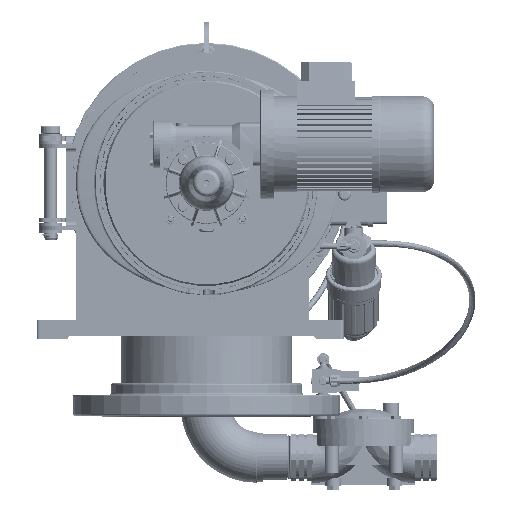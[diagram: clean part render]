
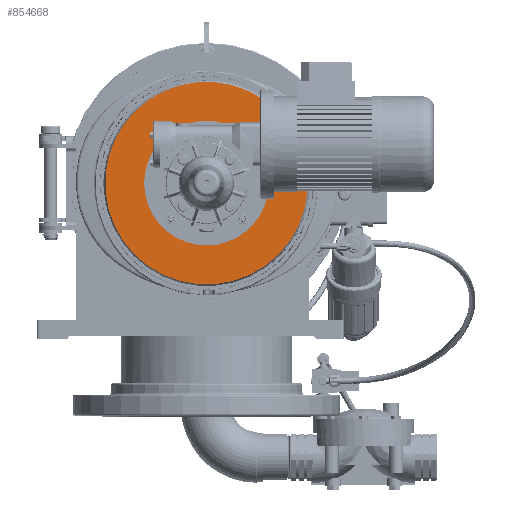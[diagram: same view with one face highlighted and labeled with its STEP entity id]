
A CAD part, left-side view. The second image highlights one B-rep face of the part: STEP entity #854668.
In plain terms, the highlighted planar face has unit normal (-1, 0, 0).
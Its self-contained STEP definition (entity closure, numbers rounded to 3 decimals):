
#641 = CARTESIAN_POINT ( 'NONE',  ( 497.373, 18.385, -18.385 ) ) ;
#35593 = AXIS2_PLACEMENT_3D ( 'NONE', #313316, #603792, #622602 ) ;
#39583 = AXIS2_PLACEMENT_3D ( 'NONE', #911062, #758807, #182610 ) ;
#68202 = EDGE_CURVE ( 'NONE', #663460, #663460, #194038, .T. ) ;
#77144 = DIRECTION ( 'NONE',  ( -1., 0., 0. ) ) ;
#77811 = CARTESIAN_POINT ( 'NONE',  ( 497.373, 91.924, -91.924 ) ) ;
#86462 = FACE_BOUND ( 'NONE', #373681, .T. ) ;
#87543 = CARTESIAN_POINT ( 'NONE',  ( 497.373, -25.633, -20.329 ) ) ;
#88344 = AXIS2_PLACEMENT_3D ( 'NONE', #870067, #650931, #941338 ) ;
#91126 = FACE_BOUND ( 'NONE', #316213, .T. ) ;
#105217 = EDGE_CURVE ( 'NONE', #853331, #853331, #626335, .T. ) ;
#109070 = AXIS2_PLACEMENT_3D ( 'NONE', #664599, #293246, #645802 ) ;
#125843 = DIRECTION ( 'NONE',  ( 1., 0., 0. ) ) ;
#143909 = CARTESIAN_POINT ( 'NONE',  ( 497.373, 0., 0. ) ) ;
#160482 = DIRECTION ( 'NONE',  ( 0., -0.707, 0.707 ) ) ;
#160618 = CIRCLE ( 'NONE', #936095, 3.75 ) ;
#161523 = ORIENTED_EDGE ( 'NONE', *, *, #105217, .F. ) ;
#182610 = DIRECTION ( 'NONE',  ( 0., -0.707, 0.707 ) ) ;
#191957 = EDGE_CURVE ( 'NONE', #816051, #816051, #377718, .T. ) ;
#194038 = CIRCLE ( 'NONE', #361071, 4.75 ) ;
#195399 = DIRECTION ( 'NONE',  ( 0., -0.707, 0.707 ) ) ;
#207110 = ORIENTED_EDGE ( 'NONE', *, *, #264818, .T. ) ;
#222017 = EDGE_LOOP ( 'NONE', ( #235247 ) ) ;
#229404 = FACE_BOUND ( 'NONE', #300379, .T. ) ;
#234933 = CARTESIAN_POINT ( 'NONE',  ( 497.373, 42.603, -42.603 ) ) ;
#235247 = ORIENTED_EDGE ( 'NONE', *, *, #855357, .T. ) ;
#264818 = EDGE_CURVE ( 'NONE', #796709, #796709, #537292, .T. ) ;
#285810 = EDGE_LOOP ( 'NONE', ( #557006 ) ) ;
#292375 = CARTESIAN_POINT ( 'NONE',  ( 497.373, 28.741, -5.76 ) ) ;
#293246 = DIRECTION ( 'NONE',  ( -1., 0., 0. ) ) ;
#300379 = EDGE_LOOP ( 'NONE', ( #824890 ) ) ;
#305290 = FACE_BOUND ( 'NONE', #768752, .T. ) ;
#310989 = EDGE_LOOP ( 'NONE', ( #207110 ) ) ;
#313316 = CARTESIAN_POINT ( 'NONE',  ( 497.373, -8.412, 31.393 ) ) ;
#316213 = EDGE_LOOP ( 'NONE', ( #161523 ) ) ;
#323524 = DIRECTION ( 'NONE',  ( 0., -0.707, 0.707 ) ) ;
#356814 = DIRECTION ( 'NONE',  ( 1., 0., 0. ) ) ;
#361071 = AXIS2_PLACEMENT_3D ( 'NONE', #828520, #466500, #323524 ) ;
#373681 = EDGE_LOOP ( 'NONE', ( #535124 ) ) ;
#377718 = CIRCLE ( 'NONE', #88344, 4.75 ) ;
#391993 = EDGE_CURVE ( 'NONE', #839076, #839076, #732721, .T. ) ;
#453013 = FACE_OUTER_BOUND ( 'NONE', #285810, .T. ) ;
#458723 = CARTESIAN_POINT ( 'NONE',  ( 497.373, -49.321, 49.321 ) ) ;
#466500 = DIRECTION ( 'NONE',  ( 1., 0., 0. ) ) ;
#510362 = PLANE ( 'NONE',  #633081 ) ;
#515156 = DIRECTION ( 'NONE',  ( 0., 0.707, -0.707 ) ) ;
#515891 = EDGE_LOOP ( 'NONE', ( #686900 ) ) ;
#527083 = DIRECTION ( 'NONE',  ( 1., 0., 0. ) ) ;
#527780 = EDGE_CURVE ( 'NONE', #587213, #587213, #796370, .T. ) ;
#534182 = EDGE_CURVE ( 'NONE', #596627, #596627, #758636, .T. ) ;
#535124 = ORIENTED_EDGE ( 'NONE', *, *, #843809, .T. ) ;
#537292 = CIRCLE ( 'NONE', #35593, 3.75 ) ;
#557006 = ORIENTED_EDGE ( 'NONE', *, *, #534182, .T. ) ;
#557263 = CARTESIAN_POINT ( 'NONE',  ( 497.373, -45.962, -45.962 ) ) ;
#559193 = CARTESIAN_POINT ( 'NONE',  ( 497.373, -22.981, -22.981 ) ) ;
#562546 = CARTESIAN_POINT ( 'NONE',  ( 497.373, 42.603, 49.321 ) ) ;
#563559 = ORIENTED_EDGE ( 'NONE', *, *, #527780, .T. ) ;
#565509 = AXIS2_PLACEMENT_3D ( 'NONE', #874980, #527083, #160482 ) ;
#586388 = CARTESIAN_POINT ( 'NONE',  ( 497.373, -91.924, -91.924 ) ) ;
#586601 = CIRCLE ( 'NONE', #39583, 3.75 ) ;
#587213 = VERTEX_POINT ( 'NONE', #734865 ) ;
#596627 = VERTEX_POINT ( 'NONE', #77811 ) ;
#603792 = DIRECTION ( 'NONE',  ( 1., 0., 0. ) ) ;
#622602 = DIRECTION ( 'NONE',  ( 0., -0.707, 0.707 ) ) ;
#626335 = CIRCLE ( 'NONE', #109070, 26. ) ;
#633081 = AXIS2_PLACEMENT_3D ( 'NONE', #586388, #877026, #805651 ) ;
#644243 = CARTESIAN_POINT ( 'NONE',  ( 497.373, -11.063, 34.044 ) ) ;
#645802 = DIRECTION ( 'NONE',  ( 0., 0.707, -0.707 ) ) ;
#650931 = DIRECTION ( 'NONE',  ( 1., 0., 0. ) ) ;
#657871 = FACE_BOUND ( 'NONE', #222017, .T. ) ;
#663460 = VERTEX_POINT ( 'NONE', #234933 ) ;
#663971 = EDGE_LOOP ( 'NONE', ( #563559 ) ) ;
#664599 = CARTESIAN_POINT ( 'NONE',  ( 497.373, 0., 0. ) ) ;
#686900 = ORIENTED_EDGE ( 'NONE', *, *, #68202, .T. ) ;
#706756 = DIRECTION ( 'NONE',  ( 0., -0.707, 0.707 ) ) ;
#721038 = VERTEX_POINT ( 'NONE', #292375 ) ;
#732721 = CIRCLE ( 'NONE', #565509, 4.75 ) ;
#734865 = CARTESIAN_POINT ( 'NONE',  ( 497.373, -49.321, -42.603 ) ) ;
#738780 = FACE_BOUND ( 'NONE', #310989, .T. ) ;
#758636 = CIRCLE ( 'NONE', #880413, 130. ) ;
#758807 = DIRECTION ( 'NONE',  ( 1., 0., 0. ) ) ;
#759527 = ORIENTED_EDGE ( 'NONE', *, *, #391993, .T. ) ;
#768752 = EDGE_LOOP ( 'NONE', ( #759527 ) ) ;
#796370 = CIRCLE ( 'NONE', #917886, 4.75 ) ;
#796709 = VERTEX_POINT ( 'NONE', #644243 ) ;
#800937 = FACE_BOUND ( 'NONE', #515891, .T. ) ;
#805651 = DIRECTION ( 'NONE',  ( 0., -0.707, 0.707 ) ) ;
#810366 = FACE_BOUND ( 'NONE', #663971, .T. ) ;
#816051 = VERTEX_POINT ( 'NONE', #458723 ) ;
#824890 = ORIENTED_EDGE ( 'NONE', *, *, #191957, .T. ) ;
#828520 = CARTESIAN_POINT ( 'NONE',  ( 497.373, 45.962, -45.962 ) ) ;
#839076 = VERTEX_POINT ( 'NONE', #562546 ) ;
#843809 = EDGE_CURVE ( 'NONE', #721038, #721038, #586601, .T. ) ;
#853331 = VERTEX_POINT ( 'NONE', #641 ) ;
#854668 = ADVANCED_FACE ( 'NONE', ( #305290, #229404, #738780, #86462, #800937, #810366, #657871, #91126, #453013 ), #510362, .F. ) ;
#855357 = EDGE_CURVE ( 'NONE', #878148, #878148, #160618, .T. ) ;
#870067 = CARTESIAN_POINT ( 'NONE',  ( 497.373, -45.962, 45.962 ) ) ;
#874980 = CARTESIAN_POINT ( 'NONE',  ( 497.373, 45.962, 45.962 ) ) ;
#877026 = DIRECTION ( 'NONE',  ( 1., 0., 0. ) ) ;
#878148 = VERTEX_POINT ( 'NONE', #87543 ) ;
#880413 = AXIS2_PLACEMENT_3D ( 'NONE', #143909, #77144, #515156 ) ;
#911062 = CARTESIAN_POINT ( 'NONE',  ( 497.373, 31.393, -8.412 ) ) ;
#917886 = AXIS2_PLACEMENT_3D ( 'NONE', #557263, #356814, #195399 ) ;
#936095 = AXIS2_PLACEMENT_3D ( 'NONE', #559193, #125843, #706756 ) ;
#941338 = DIRECTION ( 'NONE',  ( 0., -0.707, 0.707 ) ) ;
